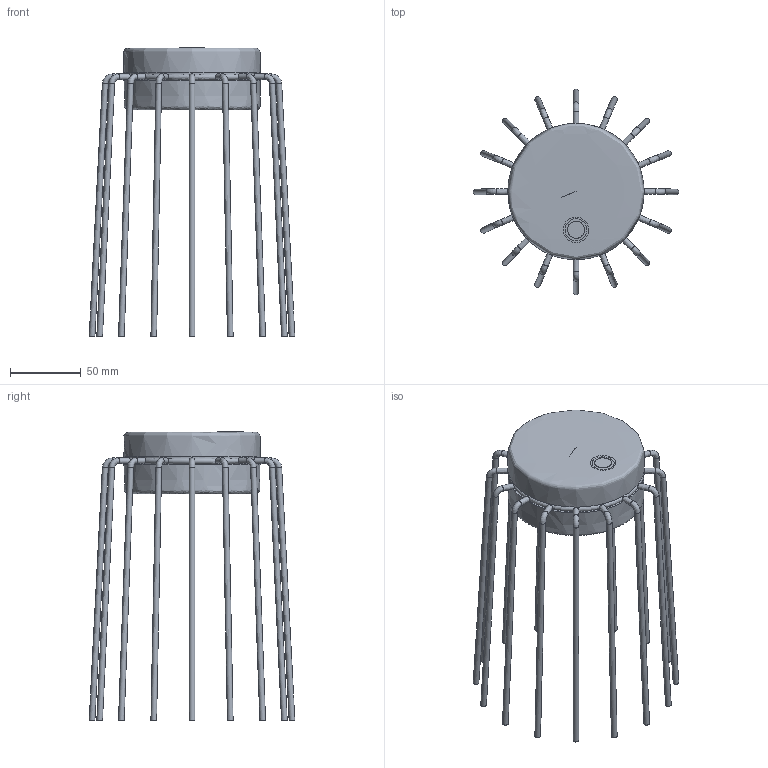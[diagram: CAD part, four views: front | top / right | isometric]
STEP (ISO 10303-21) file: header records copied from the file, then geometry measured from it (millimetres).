
FILE_DESCRIPTION(/* description */ (''),/* implementation_level */ '2;1');
FILE_NAME(/* name */ 'LOY5PX~S',/* time_stamp */ '2024-04-19T16:02:05+02:00',/* author */ (''),/* organization */ (''),/* preprocessor_version */ 'ST-DEVELOPER v16.5',/* originating_system */ '',/* authorisation */ '');
FILE_SCHEMA (('AUTOMOTIVE_DESIGN'));
Length unit declared in the file: millimetre
Products named in the file (1): Document
Bounding box: 144.99 x 144.99 x 203.6 mm (x, y, z)
Volume: 140175.2 mm3; surface area: 107452.3 mm2
Topology: 23 solids, 23 shells, 134 faces, 240 edges, 147 vertices
Faces by surface type: bspline 134
Entity records: 11290 total; most frequent: CARTESIAN_POINT 8175, B_SPLINE_CURVE_WITH_KNOTS 488, ORIENTED_EDGE 478, PCURVE 478, DEFINITIONAL_REPRESENTATION 478, SURFACE_CURVE 239, EDGE_CURVE 239, VERTEX_POINT 147
